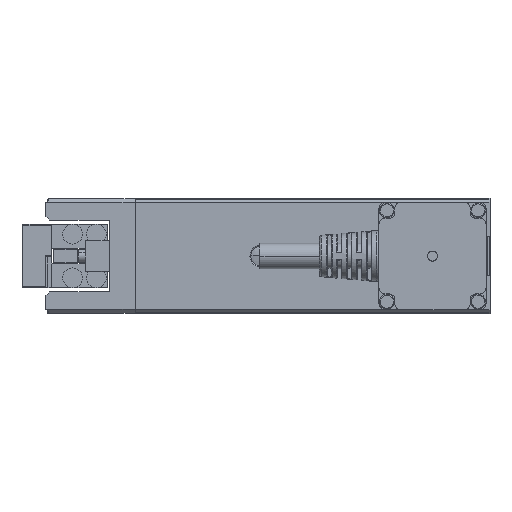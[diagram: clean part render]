
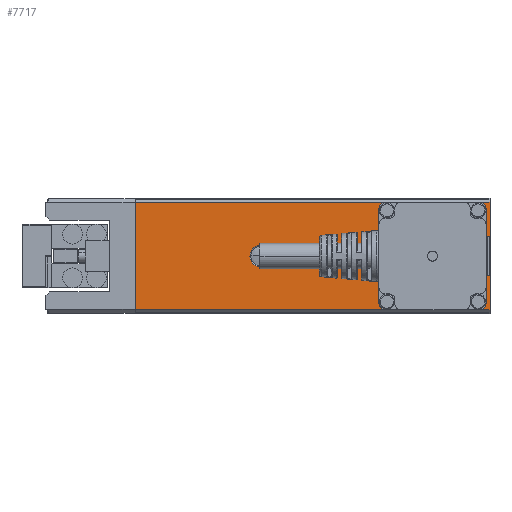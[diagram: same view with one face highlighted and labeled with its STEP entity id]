
A CAD part, left-side view. The second image highlights one B-rep face of the part: STEP entity #7717.
In plain terms, the highlighted planar face has unit normal (-1, 0, 0).
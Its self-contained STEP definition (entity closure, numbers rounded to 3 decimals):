
#546 = VERTEX_POINT ( 'NONE', #42983 ) ;
#640 = EDGE_CURVE ( 'NONE', #5478, #42432, #4794, .T. ) ;
#723 = CARTESIAN_POINT ( 'NONE',  ( -27.5, 17.515, -339.119 ) ) ;
#1010 = FACE_OUTER_BOUND ( 'NONE', #28178, .T. ) ;
#1042 = AXIS2_PLACEMENT_3D ( 'NONE', #23271, #4509, #40322 ) ;
#1699 = EDGE_CURVE ( 'NONE', #19903, #8919, #9930, .T. ) ;
#1745 = ORIENTED_EDGE ( 'NONE', *, *, #7285, .T. ) ;
#2107 = ORIENTED_EDGE ( 'NONE', *, *, #21061, .T. ) ;
#2424 = EDGE_CURVE ( 'NONE', #45072, #42432, #19707, .T. ) ;
#3063 = DIRECTION ( 'NONE',  ( 1., 0., 0. ) ) ;
#3099 = VECTOR ( 'NONE', #6913, 1000. ) ;
#3378 = DIRECTION ( 'NONE',  ( 0., -1., 0. ) ) ;
#3783 = CARTESIAN_POINT ( 'NONE',  ( -27.5, -14.185, -325.619 ) ) ;
#3814 = EDGE_CURVE ( 'NONE', #39606, #546, #43021, .T. ) ;
#4176 = VERTEX_POINT ( 'NONE', #22171 ) ;
#4369 = CARTESIAN_POINT ( 'NONE',  ( -27.5, -71.885, -320.619 ) ) ;
#4509 = DIRECTION ( 'NONE',  ( 1., 0., 0. ) ) ;
#4794 = LINE ( 'NONE', #8499, #27238 ) ;
#4822 = EDGE_CURVE ( 'NONE', #28681, #19903, #16081, .T. ) ;
#5140 = CARTESIAN_POINT ( 'NONE',  ( -27.5, -71.985, -312.119 ) ) ;
#5225 = VECTOR ( 'NONE', #11548, 1000. ) ;
#5242 = VECTOR ( 'NONE', #15660, 1000. ) ;
#5308 = ORIENTED_EDGE ( 'NONE', *, *, #12565, .T. ) ;
#5478 = VERTEX_POINT ( 'NONE', #723 ) ;
#5797 = CARTESIAN_POINT ( 'NONE',  ( -27.5, 0.015, -312.119 ) ) ;
#6726 = CARTESIAN_POINT ( 'NONE',  ( -27.5, -71.985, -339.119 ) ) ;
#6913 = DIRECTION ( 'NONE',  ( 0., 0., -1. ) ) ;
#7285 = EDGE_CURVE ( 'NONE', #25894, #10127, #39697, .T. ) ;
#7391 = ORIENTED_EDGE ( 'NONE', *, *, #40137, .T. ) ;
#7717 = ADVANCED_FACE ( 'NONE', ( #26741, #1010 ), #8901, .F. ) ;
#8499 = CARTESIAN_POINT ( 'NONE',  ( -27.5, 17.515, -311.119 ) ) ;
#8614 = LINE ( 'NONE', #15190, #5242 ) ;
#8901 = PLANE ( 'NONE',  #1042 ) ;
#8919 = VERTEX_POINT ( 'NONE', #23312 ) ;
#9301 = EDGE_LOOP ( 'NONE', ( #5308, #1745 ) ) ;
#9930 = LINE ( 'NONE', #20347, #36221 ) ;
#9933 = ORIENTED_EDGE ( 'NONE', *, *, #25233, .F. ) ;
#10127 = VERTEX_POINT ( 'NONE', #22136 ) ;
#10368 = EDGE_CURVE ( 'NONE', #546, #45072, #8614, .T. ) ;
#11232 = CARTESIAN_POINT ( 'NONE',  ( -27.5, -14.185, -325.619 ) ) ;
#11366 = CARTESIAN_POINT ( 'NONE',  ( -27.5, -71.985, -311.119 ) ) ;
#11548 = DIRECTION ( 'NONE',  ( 0., -1., 0. ) ) ;
#12458 = LINE ( 'NONE', #39913, #5225 ) ;
#12565 = EDGE_CURVE ( 'NONE', #10127, #25894, #45316, .T. ) ;
#15190 = CARTESIAN_POINT ( 'NONE',  ( -27.5, -71.985, -311.119 ) ) ;
#15311 = ORIENTED_EDGE ( 'NONE', *, *, #10368, .T. ) ;
#15660 = DIRECTION ( 'NONE',  ( 0., 0., 1. ) ) ;
#16081 = LINE ( 'NONE', #27118, #44045 ) ;
#16325 = VECTOR ( 'NONE', #42342, 1000. ) ;
#17274 = DIRECTION ( 'NONE',  ( 0., 0., -1. ) ) ;
#19707 = LINE ( 'NONE', #5797, #40754 ) ;
#19903 = VERTEX_POINT ( 'NONE', #43893 ) ;
#20347 = CARTESIAN_POINT ( 'NONE',  ( -27.5, -71.985, -330.619 ) ) ;
#21061 = EDGE_CURVE ( 'NONE', #5478, #23182, #12458, .T. ) ;
#21257 = LINE ( 'NONE', #35107, #26094 ) ;
#22136 = CARTESIAN_POINT ( 'NONE',  ( -27.5, -14.185, -322.869 ) ) ;
#22171 = CARTESIAN_POINT ( 'NONE',  ( -27.5, -70.285, -320.619 ) ) ;
#22939 = DIRECTION ( 'NONE',  ( 0., 1., 0. ) ) ;
#23182 = VERTEX_POINT ( 'NONE', #6726 ) ;
#23271 = CARTESIAN_POINT ( 'NONE',  ( -27.5, 0.015, -311.119 ) ) ;
#23312 = CARTESIAN_POINT ( 'NONE',  ( -27.5, -70.285, -330.619 ) ) ;
#23635 = VECTOR ( 'NONE', #35361, 1000. ) ;
#24188 = DIRECTION ( 'NONE',  ( 1., 0., 0. ) ) ;
#24973 = ORIENTED_EDGE ( 'NONE', *, *, #2424, .T. ) ;
#25233 = EDGE_CURVE ( 'NONE', #4176, #8919, #38145, .T. ) ;
#25894 = VERTEX_POINT ( 'NONE', #37594 ) ;
#26094 = VECTOR ( 'NONE', #3378, 1000. ) ;
#26741 = FACE_BOUND ( 'NONE', #9301, .T. ) ;
#27118 = CARTESIAN_POINT ( 'NONE',  ( -27.5, -71.985, -330.719 ) ) ;
#27238 = VECTOR ( 'NONE', #33039, 1000. ) ;
#27360 = ORIENTED_EDGE ( 'NONE', *, *, #3814, .T. ) ;
#28178 = EDGE_LOOP ( 'NONE', ( #9933, #7391, #27360, #15311, #24973, #31260, #2107, #29628, #42849, #45127 ) ) ;
#28681 = VERTEX_POINT ( 'NONE', #32051 ) ;
#29628 = ORIENTED_EDGE ( 'NONE', *, *, #31841, .T. ) ;
#29803 = AXIS2_PLACEMENT_3D ( 'NONE', #3783, #24188, #35252 ) ;
#31260 = ORIENTED_EDGE ( 'NONE', *, *, #640, .F. ) ;
#31841 = EDGE_CURVE ( 'NONE', #23182, #28681, #38614, .T. ) ;
#32051 = CARTESIAN_POINT ( 'NONE',  ( -27.5, -71.985, -330.719 ) ) ;
#33039 = DIRECTION ( 'NONE',  ( 0., 0., 1. ) ) ;
#33609 = CARTESIAN_POINT ( 'NONE',  ( -27.5, -70.285, -330.619 ) ) ;
#34414 = DIRECTION ( 'NONE',  ( 0., 1., 0. ) ) ;
#34858 = CARTESIAN_POINT ( 'NONE',  ( -27.5, 17.515, -312.119 ) ) ;
#35107 = CARTESIAN_POINT ( 'NONE',  ( -27.5, -71.985, -320.619 ) ) ;
#35252 = DIRECTION ( 'NONE',  ( 0., 0., -1. ) ) ;
#35300 = AXIS2_PLACEMENT_3D ( 'NONE', #11232, #3063, #17274 ) ;
#35361 = DIRECTION ( 'NONE',  ( 0., 0., 1. ) ) ;
#36221 = VECTOR ( 'NONE', #34414, 1000. ) ;
#37594 = CARTESIAN_POINT ( 'NONE',  ( -27.5, -14.185, -328.369 ) ) ;
#38145 = LINE ( 'NONE', #33609, #3099 ) ;
#38614 = LINE ( 'NONE', #11366, #23635 ) ;
#39606 = VERTEX_POINT ( 'NONE', #40993 ) ;
#39697 = CIRCLE ( 'NONE', #35300, 2.75 ) ;
#39913 = CARTESIAN_POINT ( 'NONE',  ( -27.5, 0.015, -339.119 ) ) ;
#40137 = EDGE_CURVE ( 'NONE', #4176, #39606, #21257, .T. ) ;
#40322 = DIRECTION ( 'NONE',  ( 0., 1., 0. ) ) ;
#40754 = VECTOR ( 'NONE', #22939, 1000. ) ;
#40993 = CARTESIAN_POINT ( 'NONE',  ( -27.5, -71.885, -320.619 ) ) ;
#41177 = DIRECTION ( 'NONE',  ( 0., 0.707, 0.707 ) ) ;
#42342 = DIRECTION ( 'NONE',  ( 0., -0.707, 0.707 ) ) ;
#42432 = VERTEX_POINT ( 'NONE', #34858 ) ;
#42849 = ORIENTED_EDGE ( 'NONE', *, *, #4822, .T. ) ;
#42983 = CARTESIAN_POINT ( 'NONE',  ( -27.5, -71.985, -320.519 ) ) ;
#43021 = LINE ( 'NONE', #4369, #16325 ) ;
#43893 = CARTESIAN_POINT ( 'NONE',  ( -27.5, -71.885, -330.619 ) ) ;
#44045 = VECTOR ( 'NONE', #41177, 1000. ) ;
#45072 = VERTEX_POINT ( 'NONE', #5140 ) ;
#45127 = ORIENTED_EDGE ( 'NONE', *, *, #1699, .T. ) ;
#45316 = CIRCLE ( 'NONE', #29803, 2.75 ) ;
